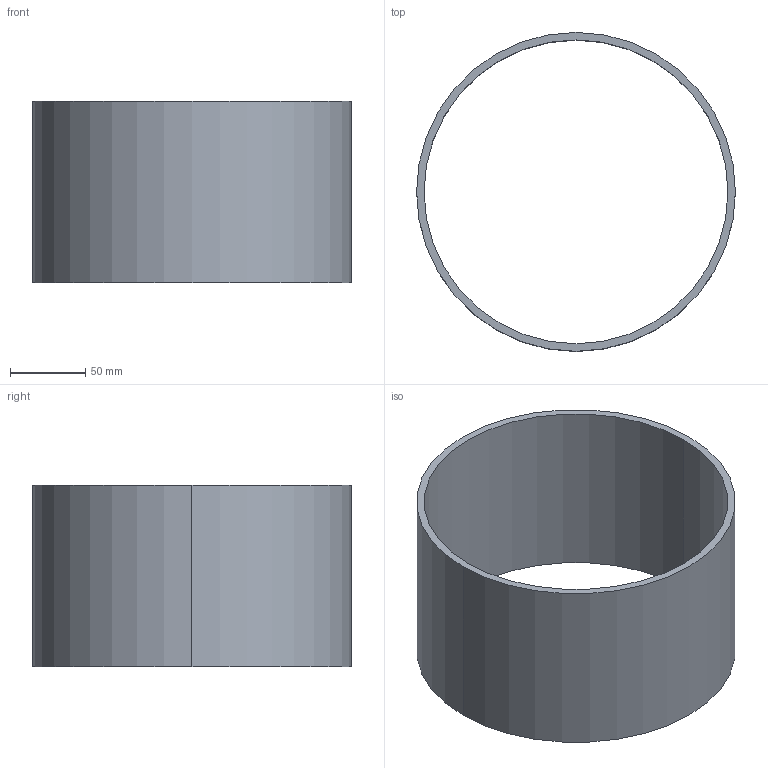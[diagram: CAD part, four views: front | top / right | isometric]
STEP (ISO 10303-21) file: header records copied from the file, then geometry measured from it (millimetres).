
FILE_DESCRIPTION(('CATIA V5 STEP Exchange'),'2;1');
FILE_NAME('C:\_Andres\UNIVERSIDAD\IQS\ASIGNATURAS\DAO\EXF\EXF-15161c\1original\Esteva_Esteve_Ej07-tabla_v6.stp','2016-03-04T21:16:33+00:00',('none'),('none'),'CATIA Version 5 Release 20 SP 1 (IN-10)','CATIA V5 STEP AP203','none');
FILE_SCHEMA(('CONFIG_CONTROL_DESIGN'));
Length unit declared in the file: millimetre
Products named in the file (1): Esteva_Esteve_Ej07-tabla_v6
Bounding box: 212 x 212 x 121 mm (x, y, z)
Volume: 393437.4 mm3; surface area: 163878 mm2
Topology: 1 solids, 1 shells, 6 faces, 13 edges, 10 vertices
Faces by surface type: cylinder 4, plane 2
Entity records: 208 total; most frequent: CARTESIAN_POINT 29, ORIENTED_EDGE 24, DIRECTION 23, AXIS2_PLACEMENT_3D 14, EDGE_CURVE 12, CIRCLE 8, EDGE_LOOP 8, VERTEX_POINT 8
